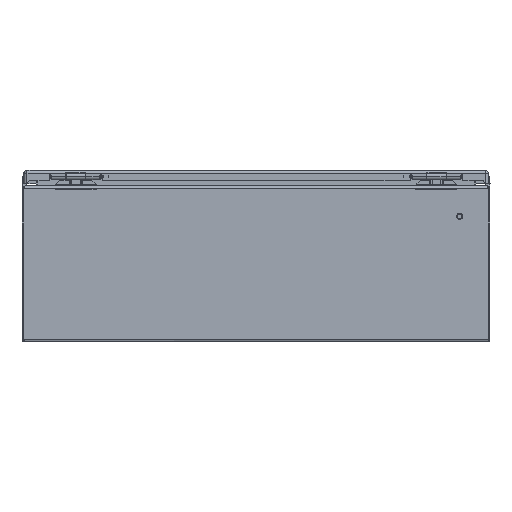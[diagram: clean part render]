
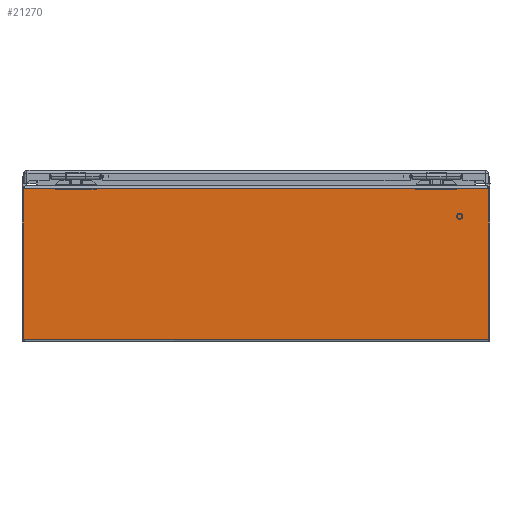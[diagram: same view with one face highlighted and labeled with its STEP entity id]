
A CAD part, left-side view. The second image highlights one B-rep face of the part: STEP entity #21270.
In plain terms, the highlighted planar face has unit normal (-1, 0, 0).
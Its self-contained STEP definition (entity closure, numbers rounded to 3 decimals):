
#5864 = CARTESIAN_POINT ( 'NONE',  ( -12., 132., 7.855 ) ) ;
#5871 = DIRECTION ( 'NONE',  ( 0., -1., 0. ) ) ;
#5900 = CARTESIAN_POINT ( 'NONE',  ( -12., 132., 0.115 ) ) ;
#5901 = DIRECTION ( 'NONE',  ( 0., -1., 0. ) ) ;
#6093 = CARTESIAN_POINT ( 'NONE',  ( -12., -11.938, 7.855 ) ) ;
#6094 = DIRECTION ( 'NONE',  ( 0., 0., 1. ) ) ;
#6464 = LINE ( 'NONE', #5864, #6466 ) ;
#6466 = VECTOR ( 'NONE', #5871, 39.37 ) ;
#6476 = LINE ( 'NONE', #5900, #6477 ) ;
#6477 = VECTOR ( 'NONE', #5901, 39.37 ) ;
#6584 = LINE ( 'NONE', #6093, #6590 ) ;
#6590 = VECTOR ( 'NONE', #6094, 39.37 ) ;
#7968 = CARTESIAN_POINT ( 'NONE',  ( -12., 11.938, 7.855 ) ) ;
#7971 = CARTESIAN_POINT ( 'NONE',  ( -12., 11.938, 0.115 ) ) ;
#7984 = CARTESIAN_POINT ( 'NONE',  ( -12., -11.938, 7.855 ) ) ;
#7985 = CARTESIAN_POINT ( 'NONE',  ( -12., -11.938, 0.115 ) ) ;
#21270 = ADVANCED_FACE ( 'NONE', ( #42479 ), #45928, .T. ) ;
#27049 = EDGE_CURVE ( 'NONE', #28180, #28196, #6464, .T. ) ;
#27068 = EDGE_CURVE ( 'NONE', #28183, #28197, #6476, .T. ) ;
#27219 = EDGE_CURVE ( 'NONE', #28197, #28196, #6584, .T. ) ;
#28180 = VERTEX_POINT ( 'NONE', #7968 ) ;
#28183 = VERTEX_POINT ( 'NONE', #7971 ) ;
#28196 = VERTEX_POINT ( 'NONE', #7984 ) ;
#28197 = VERTEX_POINT ( 'NONE', #7985 ) ;
#29470 = EDGE_LOOP ( 'NONE', ( #40055, #40056, #40057, #40058 ) ) ;
#30279 = CARTESIAN_POINT ( 'NONE',  ( -12., 11.938, 7.855 ) ) ;
#30289 = DIRECTION ( 'NONE',  ( 0., 0., -1. ) ) ;
#33409 = LINE ( 'NONE', #30279, #33422 ) ;
#33422 = VECTOR ( 'NONE', #30289, 39.37 ) ;
#36891 = EDGE_CURVE ( 'NONE', #28180, #28183, #33409, .T. ) ;
#37217 = AXIS2_PLACEMENT_3D ( 'NONE', #45924, #45933, #45934 ) ;
#40055 = ORIENTED_EDGE ( 'NONE', *, *, #27219, .T. ) ;
#40056 = ORIENTED_EDGE ( 'NONE', *, *, #27049, .F. ) ;
#40057 = ORIENTED_EDGE ( 'NONE', *, *, #36891, .T. ) ;
#40058 = ORIENTED_EDGE ( 'NONE', *, *, #27068, .T. ) ;
#42479 = FACE_OUTER_BOUND ( 'NONE', #29470, .T. ) ;
#45924 = CARTESIAN_POINT ( 'NONE',  ( -12., 132., 7.855 ) ) ;
#45928 = PLANE ( 'NONE',  #37217 ) ;
#45933 = DIRECTION ( 'NONE',  ( -1., 0., 0. ) ) ;
#45934 = DIRECTION ( 'NONE',  ( 0., 0., -1. ) ) ;
